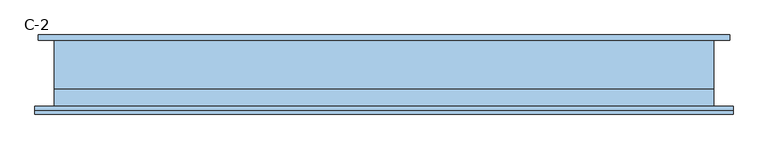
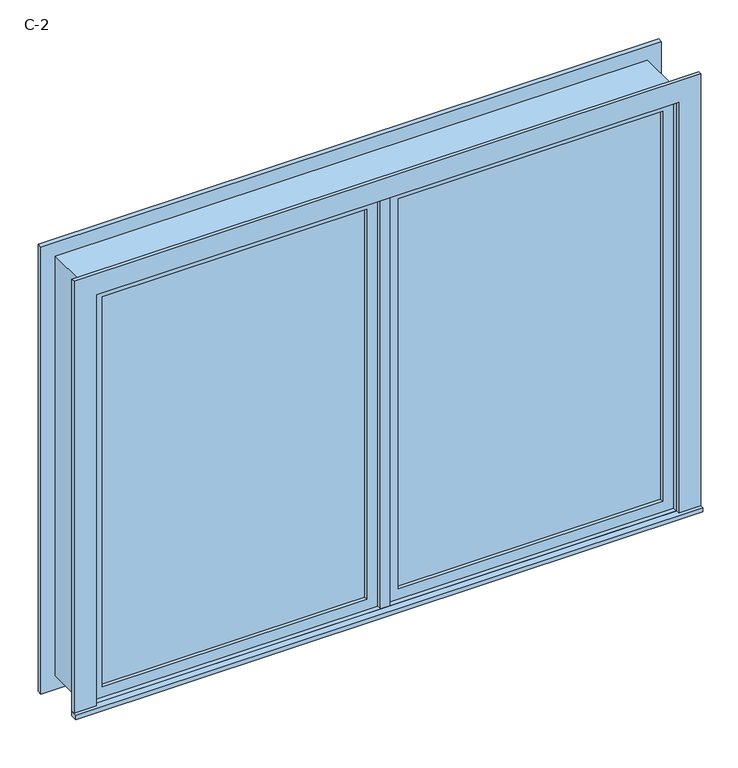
"""IFC4 building model written with IfcOpenShell, lengths in millimetres: window geometry, 双扇平开 - 带贴面 : C-2."""

from ifc_helpers import new_model, si_unit, frame, origin, place, context, project, spatial, polyline, outline, extrude, source, transform, mapped, element, save


def c_2_be8dc616(model_context):
    return source(origin(), model_context, "Body", "SweptSolid", [
        extrude(outline(polyline([(63.5, -84.125), (63.5, -71.425), (1136.5, -71.425), (1136.5, -84.125), (63.5, -84.125)])), frame((0.0, 0.0, 964.5), z_axis=(0.0, 0.0, 1.0), x_axis=(1.0, 0.0, 0.0)), (0.0, 0.0, 1.0), 1673.0),
        extrude(outline(polyline([(2681.95, 19.05), (920.05, 19.05), (920.05, 1180.95), (2681.95, 1180.95), (2681.95, 19.05)]), holes=[polyline([(2637.5, 63.5), (2637.5, 1136.5), (964.5, 1136.5), (964.5, 63.5), (2637.5, 63.5)])]), frame((0.0, -100.0, 0.0), z_axis=(0.0, 1.0, 0.0), x_axis=(0.0, 0.0, 1.0)), (0.0, 0.0, 1.0), 44.45),
        extrude(outline(polyline([(19.05, -55.55), (19.05, -119.05), (-19.05, -119.05), (-19.05, -55.55), (19.05, -55.55)])), frame((0.0, 0.0, 920.05), z_axis=(0.0, 0.0, 1.0), x_axis=(1.0, 0.0, 0.0)), (0.0, 0.0, 1.0), 1761.9),
        extrude(outline(polyline([(-63.5, -71.425), (-63.5, -84.125), (-1136.5, -84.125), (-1136.5, -71.425), (-63.5, -71.425)])), frame((0.0, 0.0, 964.5), z_axis=(0.0, 0.0, 1.0), x_axis=(1.0, 0.0, 0.0)), (0.0, 0.0, 1.0), 1673.0),
        extrude(outline(polyline([(2681.95, -1180.95), (920.05, -1180.95), (920.05, -19.05), (2681.95, -19.05), (2681.95, -1180.95)]), holes=[polyline([(2637.5, -1136.5), (2637.5, -63.5), (964.5, -63.5), (964.5, -1136.5), (2637.5, -1136.5)])]), frame((0.0, -100.0, 0.0), z_axis=(0.0, 1.0, 0.0), x_axis=(0.0, 0.0, 1.0)), (0.0, 0.0, 1.0), 44.45),
        extrude(outline(polyline([(2701.0, -1200.0), (901.0, -1200.0), (901.0, 1200.0), (2701.0, 1200.0), (2701.0, -1200.0)]), holes=[polyline([(2669.25, -1168.25), (2669.25, 1168.25), (932.75, 1168.25), (932.75, -1168.25), (2669.25, -1168.25)])]), frame((0.0, -55.55, 0.0), z_axis=(0.0, 1.0, 0.0), x_axis=(0.0, 0.0, 1.0)), (0.0, 0.0, 1.0), 175.55),
        extrude(outline(polyline([(2701.0, 1200.0), (2701.0, -1200.0), (901.0, -1200.0), (901.0, 1200.0), (2701.0, 1200.0)]), holes=[polyline([(2681.95, 1180.95), (920.05, 1180.95), (920.05, -1180.95), (2681.95, -1180.95), (2681.95, 1180.95)])]), frame((0.0, -120.0, 0.0), z_axis=(0.0, 1.0, 0.0), x_axis=(0.0, 0.0, 1.0)), (0.0, 0.0, 1.0), 64.45),
        extrude(outline(polyline([(-1270.95, -147.7), (-1270.95, -120.0), (1270.95, -120.0), (1270.95, -147.7), (-1270.95, -147.7)])), frame((0.0, 0.0, 901.0), z_axis=(0.0, 0.0, 1.0), x_axis=(1.0, 0.0, 0.0)), (0.0, 0.0, 1.0), 19.05),
        extrude(outline(polyline([(2681.95, -1180.95), (2681.95, 1180.95), (920.05, 1180.95), (920.05, 1270.95), (2771.95, 1270.95), (2771.95, -1270.95), (920.05, -1270.95), (920.05, -1180.95), (2681.95, -1180.95)])), frame((0.0, -135.0, 0.0), z_axis=(0.0, 1.0, 0.0), x_axis=(0.0, 0.0, 1.0)), (0.0, 0.0, 1.0), 15.0),
        extrude(outline(polyline([(2759.25, 1258.25), (2759.25, -1258.25), (842.75, -1258.25), (842.75, 1258.25), (2759.25, 1258.25)]), holes=[polyline([(2669.25, 1168.25), (932.75, 1168.25), (932.75, -1168.25), (2669.25, -1168.25), (2669.25, 1168.25)])]), frame((0.0, 120.0, 0.0), z_axis=(0.0, 1.0, 0.0), x_axis=(0.0, 0.0, 1.0)), (0.0, 0.0, 1.0), 20.0),
    ])


if __name__ == "__main__":
    model = new_model("IFC4")
    model_context = context("Model", 3, world=origin())
    ifc_project = project(units=[si_unit("LENGTHUNIT", "METRE", prefix="MILLI")], contexts=[model_context])
    site = spatial("IfcSite", under=ifc_project)
    building = spatial("IfcBuilding", under=site)
    placement = place(None, origin())
    c_2_shape = c_2_be8dc616(model_context)
    element("IfcWindow", 1, ObjectType="双扇平开 - 带贴面 : C-2", at=placement, inside=building, context=model_context, shape_type="MappedRepresentation", body=[
        mapped(c_2_shape, transform((0.0, 0.0, 0.0), x_axis=(1.0, 0.0, 0.0), y_axis=(0.0, 1.0, 0.0), z_axis=(0.0, 0.0, 1.0))),
    ])
    save(model, "model.ifc")
